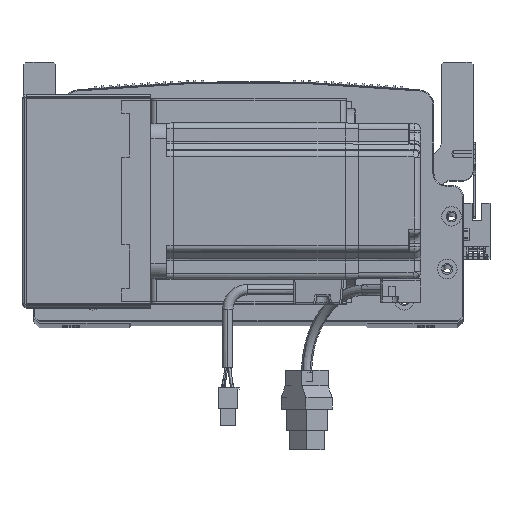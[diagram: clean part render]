
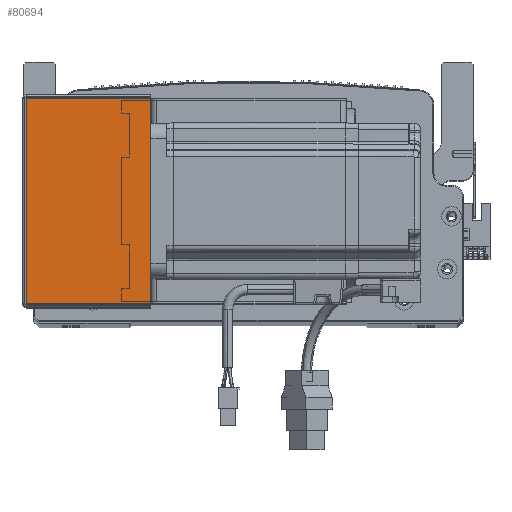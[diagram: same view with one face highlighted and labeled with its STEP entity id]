
A CAD part, top view. The second image highlights one B-rep face of the part: STEP entity #80694.
In plain terms, the highlighted planar face has unit normal (0, 0, 1) as drawn and (0, 0, -1) by its records, which use the part's own axes.
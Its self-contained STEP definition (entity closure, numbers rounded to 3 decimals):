
#1203 = DIRECTION ( 'NONE',  ( 0., -1., 0. ) ) ;
#1496 = CARTESIAN_POINT ( 'NONE',  ( 64.5, 0., -205.5 ) ) ;
#5354 = ORIENTED_EDGE ( 'NONE', *, *, #35884, .T. ) ;
#5435 = CARTESIAN_POINT ( 'NONE',  ( 0., 0.707, -205.5 ) ) ;
#9103 = ORIENTED_EDGE ( 'NONE', *, *, #33067, .T. ) ;
#14568 = LINE ( 'NONE', #47283, #37562 ) ;
#24393 = CARTESIAN_POINT ( 'NONE',  ( 0., 105.293, -205.5 ) ) ;
#25116 = DIRECTION ( 'NONE',  ( 1., 0., 0. ) ) ;
#26723 = CARTESIAN_POINT ( 'NONE',  ( 0., 0., -205.5 ) ) ;
#27310 = ORIENTED_EDGE ( 'NONE', *, *, #28744, .F. ) ;
#28326 = DIRECTION ( 'NONE',  ( 0., -1., 0. ) ) ;
#28744 = EDGE_CURVE ( 'NONE', #48802, #51649, #14568, .T. ) ;
#32915 = LINE ( 'NONE', #5435, #63193 ) ;
#33067 = EDGE_CURVE ( 'NONE', #48802, #58189, #53499, .T. ) ;
#33147 = DIRECTION ( 'NONE',  ( 0., 0., 1. ) ) ;
#35884 = EDGE_CURVE ( 'NONE', #58189, #82145, #64434, .T. ) ;
#36902 = VECTOR ( 'NONE', #44818, 1000. ) ;
#37562 = VECTOR ( 'NONE', #28326, 1000. ) ;
#37982 = AXIS2_PLACEMENT_3D ( 'NONE', #26723, #33147, #53193 ) ;
#41305 = ORIENTED_EDGE ( 'NONE', *, *, #45077, .F. ) ;
#44676 = CARTESIAN_POINT ( 'NONE',  ( 64.5, 105.293, -205.5 ) ) ;
#44818 = DIRECTION ( 'NONE',  ( 1., 0., 0. ) ) ;
#45077 = EDGE_CURVE ( 'NONE', #51649, #82145, #32915, .T. ) ;
#47283 = CARTESIAN_POINT ( 'NONE',  ( 0.737, 0., -205.5 ) ) ;
#48168 = CARTESIAN_POINT ( 'NONE',  ( 0.737, 0.707, -205.5 ) ) ;
#48802 = VERTEX_POINT ( 'NONE', #72445 ) ;
#51649 = VERTEX_POINT ( 'NONE', #48168 ) ;
#53193 = DIRECTION ( 'NONE',  ( 1., 0., 0. ) ) ;
#53499 = LINE ( 'NONE', #24393, #36902 ) ;
#58189 = VERTEX_POINT ( 'NONE', #44676 ) ;
#60138 = FACE_OUTER_BOUND ( 'NONE', #77153, .T. ) ;
#62327 = VECTOR ( 'NONE', #1203, 1000. ) ;
#63193 = VECTOR ( 'NONE', #25116, 1000. ) ;
#64434 = LINE ( 'NONE', #1496, #62327 ) ;
#65813 = PLANE ( 'NONE',  #37982 ) ;
#72445 = CARTESIAN_POINT ( 'NONE',  ( 0.737, 105.293, -205.5 ) ) ;
#76036 = CARTESIAN_POINT ( 'NONE',  ( 64.5, 0.707, -205.5 ) ) ;
#77153 = EDGE_LOOP ( 'NONE', ( #27310, #9103, #5354, #41305 ) ) ;
#80694 = ADVANCED_FACE ( 'NONE', ( #60138 ), #65813, .F. ) ;
#82145 = VERTEX_POINT ( 'NONE', #76036 ) ;
